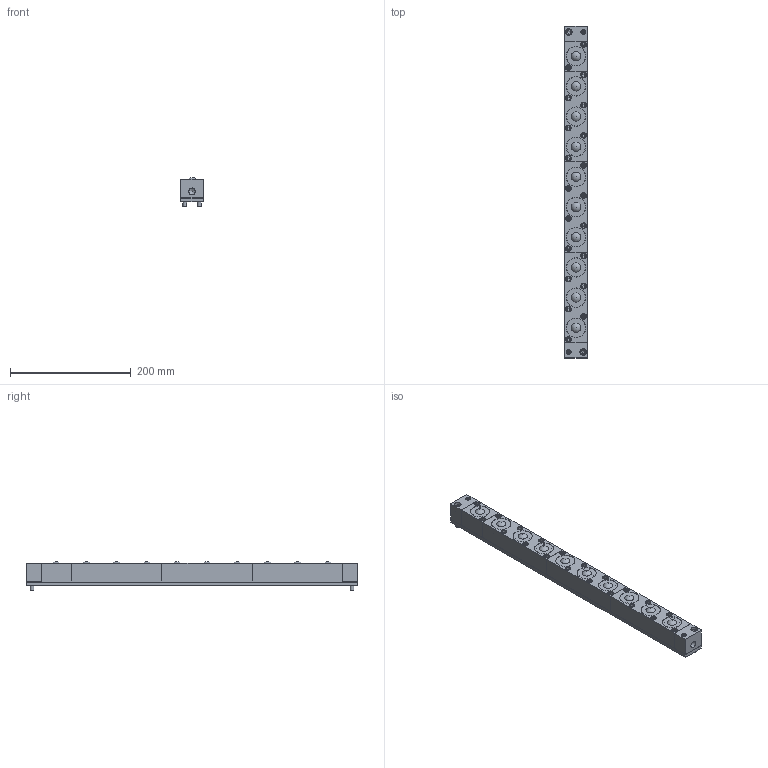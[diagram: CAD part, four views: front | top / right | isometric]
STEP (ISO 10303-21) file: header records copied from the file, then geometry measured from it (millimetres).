
FILE_DESCRIPTION(/* description */ (''),/* implementation_level */ '2;1');
FILE_NAME(/* name */ 'Z:\34-Tei\01-web 3Dデータ\40-ISR-38\X2\578B\X0\\ISR-38-550-A.stp',/* time_stamp */ '2015-01-15T17:55:54+09:00',/* author */ ('yamaki'),/* organization */ (''),/* preprocessor_version */ 'ST-DEVELOPER v15.6',/* originating_system */ 'Autodesk Inventor 2015',/* authorisation */ '');
FILE_SCHEMA (('AUTOMOTIVE_DESIGN { 1 0 10303 214 3 1 1 }'));
Length unit declared in the file: millimetre
Products named in the file (7): 4100AT-01-550; 4100AT-02; 4100AT-00; 4100AT-03; RSW10601; HCB10635; 4100AA
Bounding box: 38 x 550 x 48 mm (x, y, z)
Volume: 726782.8 mm3; surface area: 227576.1 mm2
Topology: 19 solids, 19 shells, 546 faces, 1135 edges, 726 vertices
Faces by surface type: plane 355, cylinder 107, cone 48, torus 26, sphere 10
Full cylindrical faces by diameter (mm): 6 x2, 6.5 x2, 7 x2, 8 x2, 8.5 x20, 9.5 x20, 10 x2, 10.5 x1, 11 x2, 25.7 x10, 31.5 x10, 32 x10, 35 x20
Entity records: 6111 total; most frequent: CARTESIAN_POINT 1118, DIRECTION 976, ORIENTED_EDGE 846, EDGE_CURVE 423, AXIS2_PLACEMENT_3D 359, EDGE_LOOP 340, VERTEX_POINT 303, LINE 258
